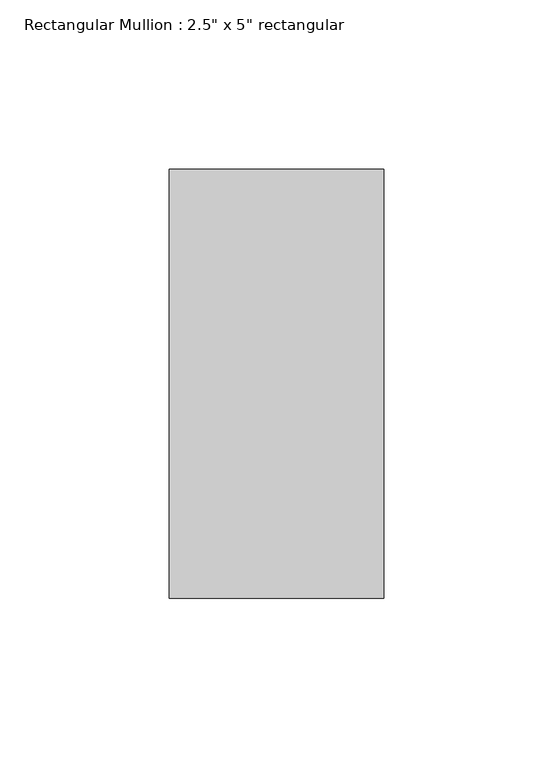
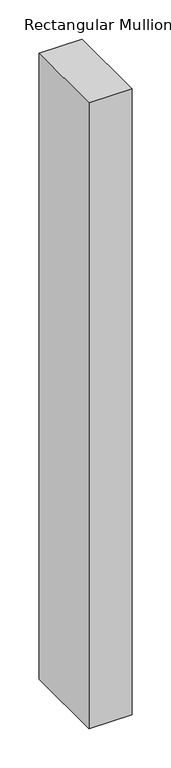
"""IFC4 building model written with IfcOpenShell, lengths in millimetres: member geometry."""

from ifc_helpers import new_model, si_unit, frame, origin, place, context, project, spatial, polyline, outline, extrude, source, transform, mapped, element, save


def member_b63a64dd(model_context):
    return source(origin(), model_context, "Body", "SweptSolid", [
        extrude(outline(polyline([(0.0, 76.2), (0.0, -50.8), (-63.5, -50.8), (-63.5, 76.2), (0.0, 76.2)])), frame((0.0, 0.0, -974.1958333), z_axis=(0.0, 0.0, 1.0), x_axis=(1.0, 0.0, 0.0)), (0.0, 0.0, 1.0), 974.1958333),
    ])


if __name__ == "__main__":
    model = new_model("IFC4")
    model_context = context("Model", 3, world=origin())
    ifc_project = project(units=[si_unit("LENGTHUNIT", "METRE", prefix="MILLI")], contexts=[model_context])
    site = spatial("IfcSite", under=ifc_project)
    building = spatial("IfcBuilding", under=site)
    placement = place(None, origin())
    member_shape = member_b63a64dd(model_context)
    element("IfcMember", 1, ObjectType="Rectangular Mullion : 2.5\" x 5\" rectangular", at=placement, inside=building, context=model_context, shape_type="MappedRepresentation", body=[
        mapped(member_shape, transform((0.0, 0.0, 0.0), x_axis=(1.0, 0.0, 0.0), y_axis=(0.0, 1.0, 0.0), z_axis=(0.0, 0.0, 1.0))),
    ])
    save(model, "model.ifc")
